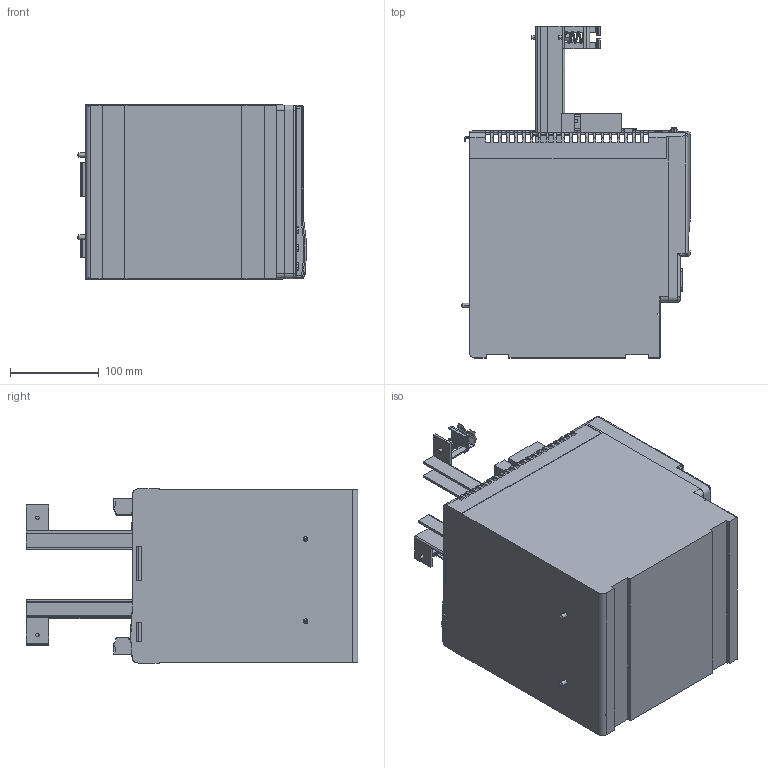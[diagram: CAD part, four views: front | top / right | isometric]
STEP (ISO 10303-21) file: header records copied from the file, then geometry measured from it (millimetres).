
FILE_DESCRIPTION (( 'STEP AP214' ), '1' );
FILE_NAME ('Rockwell Automation-2094-XX-2094-BC04-M03-S.STEP', '2011-11-14T15:28:52', ( 'SysAdmin' ), ( 'SolidWorks' ), 'SwSTEP 2.0', 'SolidWorks 2012', '' );
FILE_SCHEMA (( 'AUTOMOTIVE_DESIGN' ));
Length unit declared in the file: millimetre
Products named in the file (1): Rockwell Automation-2094-XX-2094-BC04-M03-S
Bounding box: 257.96 x 374 x 197.04 mm (x, y, z)
Volume: 1221680.1 mm3; surface area: 704193.7 mm2
Topology: 2 solids, 2 shells, 2500 faces, 7003 edges, 4638 vertices
Faces by surface type: plane 1436, cylinder 741, bspline 266, torus 35, cone 20, sphere 2
Entity records: 107170 total; most frequent: CARTESIAN_POINT 36882, ORIENTED_EDGE 14006, DIRECTION 12056, EDGE_CURVE 7003, VERTEX_POINT 4638, LINE 4500, VECTOR 4500, AXIS2_PLACEMENT_3D 3778
